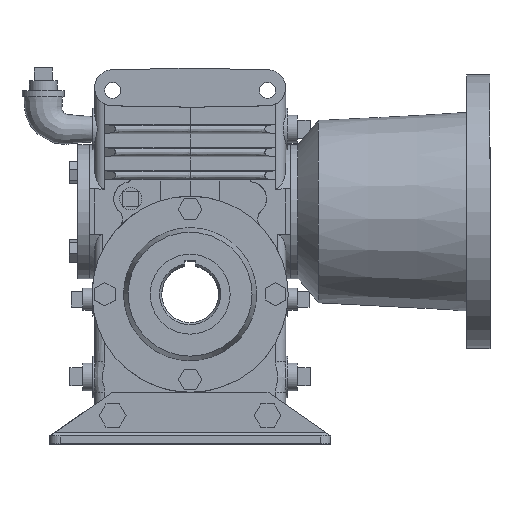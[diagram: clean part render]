
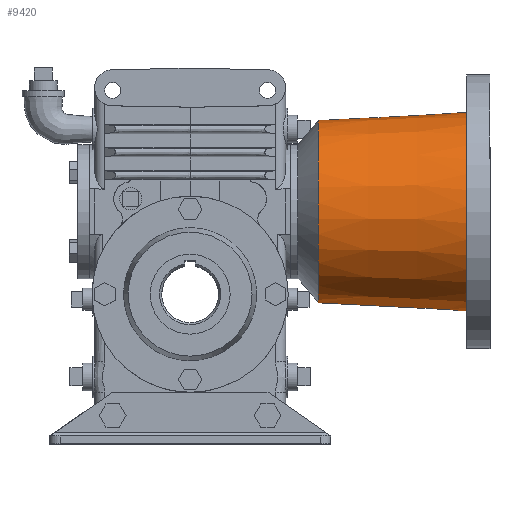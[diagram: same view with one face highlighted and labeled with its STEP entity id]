
A CAD part, top view. The second image highlights one B-rep face of the part: STEP entity #9420.
In plain terms, the highlighted conical face has half-angle 3 degrees and reference radius 61.109 mm.
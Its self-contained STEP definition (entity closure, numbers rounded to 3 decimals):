
#80=CONICAL_SURFACE('',#11688,61.109,0.052);
#206=B_SPLINE_CURVE_WITH_KNOTS('',3,(#18190,#18191,#18192,#18193,#18194,
#18195,#18196,#18197,#18198,#18199),.UNSPECIFIED.,.F.,.F.,(4,1,1,1,1,1,
1,4),(0.,0.002,0.005,0.007,
0.01,0.012,0.015,0.02),
 .UNSPECIFIED.);
#207=B_SPLINE_CURVE_WITH_KNOTS('',3,(#18202,#18203,#18204,#18205),
 .UNSPECIFIED.,.F.,.F.,(4,4),(0.037,0.118),
 .UNSPECIFIED.);
#208=B_SPLINE_CURVE_WITH_KNOTS('',3,(#18209,#18210,#18211,#18212),
 .UNSPECIFIED.,.F.,.F.,(4,4),(0.098,0.179),
 .UNSPECIFIED.);
#4151=ORIENTED_EDGE('',*,*,#5649,.T.);
#4152=ORIENTED_EDGE('',*,*,#5650,.T.);
#4153=ORIENTED_EDGE('',*,*,#5651,.F.);
#4154=ORIENTED_EDGE('',*,*,#5652,.T.);
#4155=ORIENTED_EDGE('',*,*,#5653,.T.);
#5649=EDGE_CURVE('',#6591,#6592,#206,.T.);
#5650=EDGE_CURVE('',#6592,#6593,#207,.T.);
#5651=EDGE_CURVE('',#6594,#6593,#6987,.T.);
#5652=EDGE_CURVE('',#6594,#6591,#208,.T.);
#5653=EDGE_CURVE('',#6595,#6595,#6988,.T.);
#6591=VERTEX_POINT('',#18200);
#6592=VERTEX_POINT('',#18201);
#6593=VERTEX_POINT('',#18206);
#6594=VERTEX_POINT('',#18208);
#6595=VERTEX_POINT('',#18214);
#6987=CIRCLE('',#11689,56.327);
#6988=CIRCLE('',#11690,61.109);
#7640=EDGE_LOOP('',(#4151,#4152,#4153,#4154));
#7641=EDGE_LOOP('',(#4155));
#8413=FACE_BOUND('',#7640,.T.);
#8414=FACE_BOUND('',#7641,.T.);
#9420=ADVANCED_FACE('',(#8413,#8414),#80,.T.);
#11688=AXIS2_PLACEMENT_3D('',#18189,#13971,#13972);
#11689=AXIS2_PLACEMENT_3D('',#18207,#13973,#13974);
#11690=AXIS2_PLACEMENT_3D('',#18213,#13975,#13976);
#13971=DIRECTION('',(1.,0.,0.));
#13972=DIRECTION('',(0.,0.,-1.));
#13973=DIRECTION('',(-1.,0.,0.));
#13974=DIRECTION('',(0.,0.,1.));
#13975=DIRECTION('',(-1.,0.,0.));
#13976=DIRECTION('',(0.,0.,1.));
#18189=CARTESIAN_POINT('',(108.255,0.,0.));
#18190=CARTESIAN_POINT('',(97.384,-6.078,-60.233));
#18191=CARTESIAN_POINT('',(98.224,-6.078,-60.277));
#18192=CARTESIAN_POINT('',(99.876,-5.746,-60.399));
#18193=CARTESIAN_POINT('',(101.988,-4.337,-60.634));
#18194=CARTESIAN_POINT('',(103.4,-2.228,-60.829));
#18195=CARTESIAN_POINT('',(103.9,0.269,-60.898));
#18196=CARTESIAN_POINT('',(103.403,2.766,-60.807));
#18197=CARTESIAN_POINT('',(101.518,5.589,-60.52));
#18198=CARTESIAN_POINT('',(99.063,6.622,-60.264));
#18199=CARTESIAN_POINT('',(97.384,6.622,-60.176));
#18200=CARTESIAN_POINT('',(97.384,-6.078,-60.233));
#18201=CARTESIAN_POINT('',(97.384,6.622,-60.176));
#18202=CARTESIAN_POINT('',(97.384,6.622,-60.176));
#18203=CARTESIAN_POINT('',(70.595,6.622,-58.763));
#18204=CARTESIAN_POINT('',(43.807,6.622,-57.35));
#18205=CARTESIAN_POINT('',(17.018,6.622,-55.937));
#18206=CARTESIAN_POINT('',(17.018,6.622,-55.937));
#18207=CARTESIAN_POINT('',(17.018,0.,0.));
#18208=CARTESIAN_POINT('',(17.018,-6.078,-55.998));
#18209=CARTESIAN_POINT('',(17.018,-6.078,-55.998));
#18210=CARTESIAN_POINT('',(43.807,-6.078,-57.41));
#18211=CARTESIAN_POINT('',(70.595,-6.078,-58.822));
#18212=CARTESIAN_POINT('',(97.384,-6.078,-60.233));
#18213=CARTESIAN_POINT('',(108.255,0.,0.));
#18214=CARTESIAN_POINT('',(108.255,0.,61.109));
